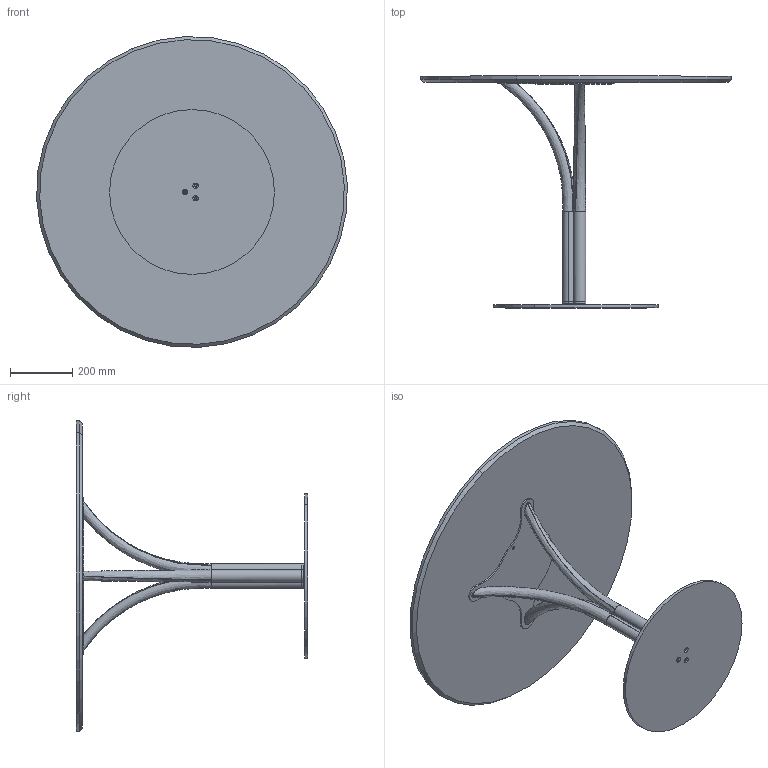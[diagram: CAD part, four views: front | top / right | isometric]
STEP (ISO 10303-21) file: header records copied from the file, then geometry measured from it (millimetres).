
FILE_DESCRIPTION (( 'STEP AP203' ), '1' );
FILE_NAME ('DB30M.STEP', '2024-08-08T08:15:10', ( '' ), ( '' ), 'SwSTEP 2.0', 'SolidWorks 2022', '' );
FILE_SCHEMA (( 'CONFIG_CONTROL_DESIGN' ));
Length unit declared in the file: millimetre
Products named in the file (6): DOD000000-01-DODO BASE ; M0X-00- D. piani marmo_D.1000; DOD000000_02-00-Gamba curvata per DODO''_Default<A macchina>; CBS000000BAS-00-BISTRO PIASTRA INFERIORE_D.530; DOD000000_01-01-poggiapiano; DB30M
Assembly tree (7 placements, depth 3):
  DB30M
    CBS000000BAS-00-BISTRO PIASTRA INFERIORE_D.530
    DOD000000-01-DODO BASE 
      DOD000000_02-00-Gamba curvata per DODO''_Default<A macchina>  x3
      DOD000000_01-01-poggiapiano
    M0X-00- D. piani marmo_D.1000
Bounding box: 998.98 x 745 x 998.98 mm (x, y, z)
Volume: 18644981.2 mm3; surface area: 2751514.4 mm2
Topology: 9 solids, 9 shells, 113 faces, 269 edges, 170 vertices
Faces by surface type: cylinder 61, plane 24, cone 16, bspline 12
Entity records: 6327 total; most frequent: CARTESIAN_POINT 3703, DIRECTION 443, ORIENTED_EDGE 378, EDGE_CURVE 189, AXIS2_PLACEMENT_3D 182, VERTEX_POINT 122, EDGE_LOOP 101, CIRCLE 94
